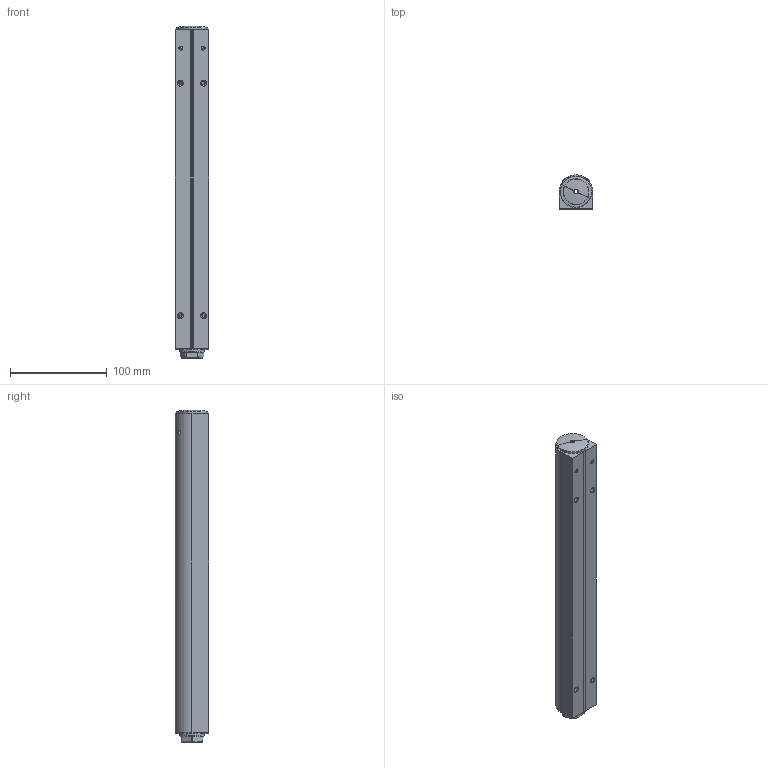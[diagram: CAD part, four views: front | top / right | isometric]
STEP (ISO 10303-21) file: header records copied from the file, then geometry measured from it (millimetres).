
FILE_DESCRIPTION (( 'STEP AP203' ), '1' );
FILE_NAME ('CBX20.STEP', '2014-02-06T20:45:12', ( '' ), ( '' ), 'SwSTEP 2.0', 'SolidWorks 2013', '' );
FILE_SCHEMA (( 'CONFIG_CONTROL_DESIGN' ));
Length unit declared in the file: millimetre
Products named in the file (1): CBX20
Bounding box: 35 x 35 x 342.65 mm (x, y, z)
Volume: 227146 mm3; surface area: 155777.3 mm2
Topology: 7 solids, 15 shells, 896 faces, 2409 edges, 1577 vertices
Faces by surface type: plane 326, cylinder 264, bspline 206, cone 60, torus 32, sphere 8
Entity records: 38854 total; most frequent: CARTESIAN_POINT 18625, ORIENTED_EDGE 4818, DIRECTION 3311, EDGE_CURVE 2409, VERTEX_POINT 1577, AXIS2_PLACEMENT_3D 1280, EDGE_LOOP 960, B_SPLINE_CURVE_WITH_KNOTS 922
